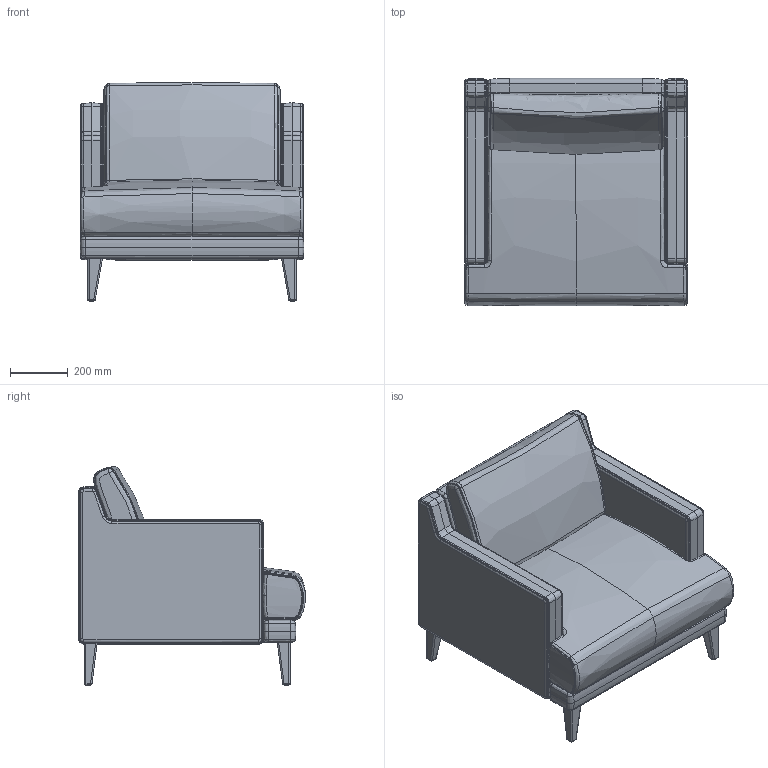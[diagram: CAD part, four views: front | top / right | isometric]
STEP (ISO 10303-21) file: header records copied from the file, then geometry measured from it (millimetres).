
FILE_DESCRIPTION(/* description */ (''),/* implementation_level */ '2;1');
FILE_NAME(/* name */ 'CC Resimercial Lounge.step',/* time_stamp */ '2025-08-19T08:40:57-07:00',/* author */ (''),/* organization */ (''),/* preprocessor_version */ 'ST-DEVELOPER v20.1',/* originating_system */ 'Autodesk Translation Framework v14.10.0.0',/* authorisation */ '');
FILE_SCHEMA (('AUTOMOTIVE_DESIGN { 1 0 10303 214 3 1 1 }'));
Products named in the file (1): 1
Bounding box: 774.7 x 785.71 x 757.64 mm (x, y, z)
Volume: 217985100.1 mm3; surface area: 7747905.2 mm2
Topology: 22 solids, 28 shells, 774 faces, 1801 edges, 1057 vertices
Faces by surface type: bspline 624, plane 77, cylinder 53, sphere 16, torus 4
Full cylindrical faces by diameter (mm): 16.51 x4
Entity records: 42019 total; most frequent: CARTESIAN_POINT 28241, ORIENTED_EDGE 3586, EDGE_CURVE 1793, DIRECTION 1670, VERTEX_POINT 1053, B_SPLINE_CURVE_WITH_KNOTS 907, FACE_OUTER_BOUND 766, EDGE_LOOP 766
